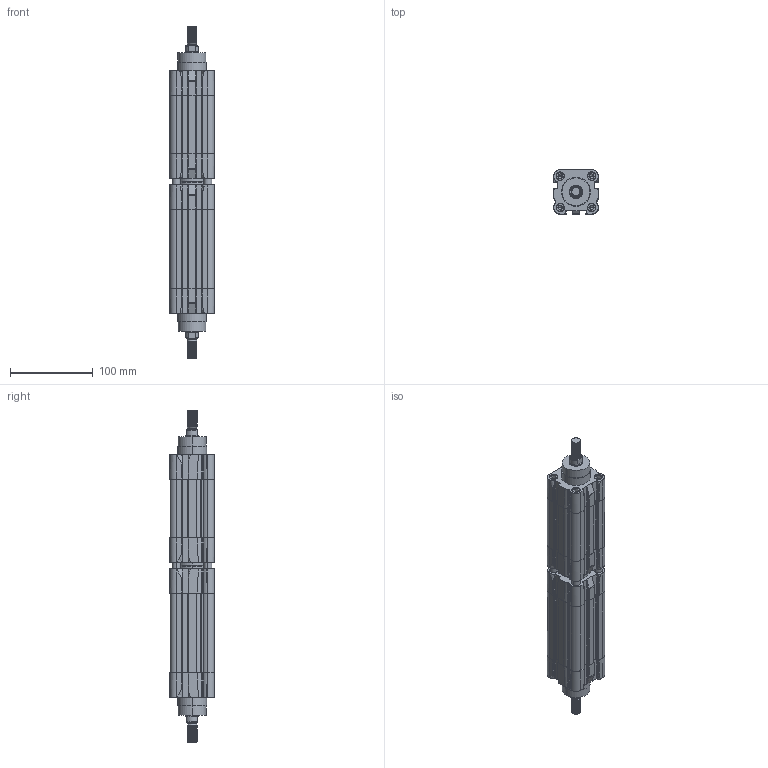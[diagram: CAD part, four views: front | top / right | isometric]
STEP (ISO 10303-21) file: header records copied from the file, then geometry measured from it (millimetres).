
FILE_DESCRIPTION (( 'STEP AP203' ), '1' );
FILE_NAME ('TTX40.0025-0050CNP.STEP', '2005-11-15T11:11:32', ( 'Vesta Automation srl' ), ( 'Vesta Automation srl' ), 'SwSTEP 2.0', 'SolidWorks 2005187', '' );
FILE_SCHEMA (( 'CONFIG_CONTROL_DESIGN' ));
Products named in the file (8): CENTERING BOLT-TTX-CNP40; PISTON ROD-TTX40_STROKE 0050; PISTON ROD-TTX40_STROKE 0025; BARREL-TTX40_STROKE 0025; FRONT END CAP-TTX40; REAR END CAP-TTX-CNP40; BARREL-TTX40_STROKE 0050; TTX40.0025-0050CNP
Assembly tree (12 placements, depth 2):
  TTX40.0025-0050CNP
    PISTON ROD-TTX40_STROKE 0050
    BARREL-TTX40_STROKE 0025
    CENTERING BOLT-TTX-CNP40  x4
    REAR END CAP-TTX-CNP40  x2
    PISTON ROD-TTX40_STROKE 0025
    FRONT END CAP-TTX40  x2
    BARREL-TTX40_STROKE 0050
Bounding box: 54.05 x 54.2 x 401 mm (x, y, z)
Volume: 697914.7 mm3; surface area: 199721.6 mm2
Topology: 14 solids, 14 shells, 1996 faces, 4848 edges, 3026 vertices
Faces by surface type: plane 718, cone 648, cylinder 508, bspline 114, torus 8
Entity records: 47861 total; most frequent: CARTESIAN_POINT 15245, DIRECTION 6714, ORIENTED_EDGE 6518, EDGE_CURVE 3259, AXIS2_PLACEMENT_3D 2425, VERTEX_POINT 2070, LINE 1864, VECTOR 1864
